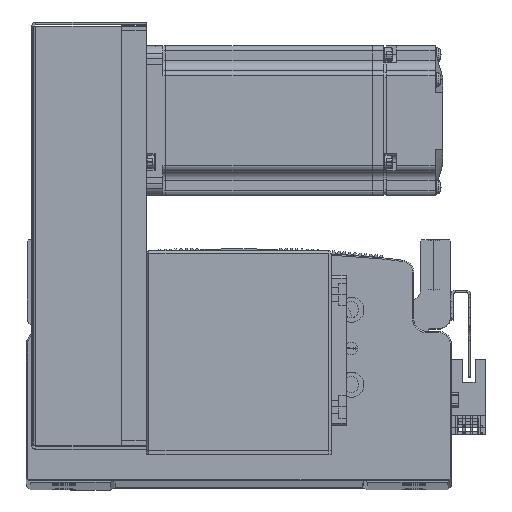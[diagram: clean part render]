
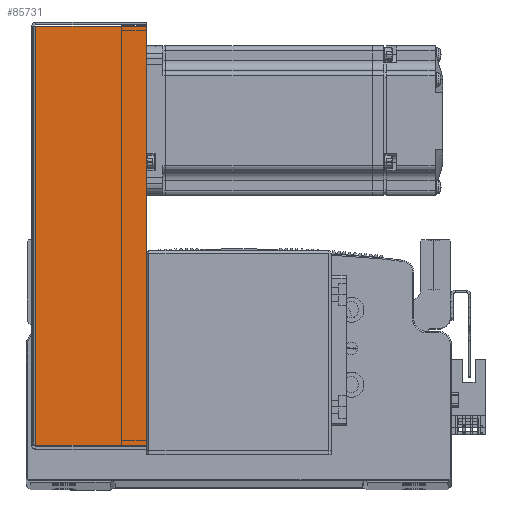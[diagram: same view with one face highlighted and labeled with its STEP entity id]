
A CAD part, top view. The second image highlights one B-rep face of the part: STEP entity #85731.
In plain terms, the highlighted planar face has unit normal (0, 0, 1) as drawn and (0, 0, -1) by its records, which use the part's own axes.
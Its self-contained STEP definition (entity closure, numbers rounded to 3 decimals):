
#18404 = VECTOR ( 'NONE', #21976, 1000. ) ;
#18405 = LINE ( 'NONE', #21939, #18423 ) ;
#18410 = LINE ( 'NONE', #21990, #18404 ) ;
#18423 = VECTOR ( 'NONE', #21972, 1000. ) ;
#18430 = VECTOR ( 'NONE', #22012, 1000. ) ;
#18454 = LINE ( 'NONE', #22009, #18430 ) ;
#18464 = LINE ( 'NONE', #22020, #18485 ) ;
#18485 = VECTOR ( 'NONE', #22165, 1000. ) ;
#21939 = CARTESIAN_POINT ( 'NONE',  ( 0., 0.737, -40.5 ) ) ;
#21972 = DIRECTION ( 'NONE',  ( 1., 0., 0. ) ) ;
#21976 = DIRECTION ( 'NONE',  ( 1., 0., 0. ) ) ;
#21990 = CARTESIAN_POINT ( 'NONE',  ( 84.5, 45., -40.5 ) ) ;
#22009 = CARTESIAN_POINT ( 'NONE',  ( -83.793, 0., -40.5 ) ) ;
#22012 = DIRECTION ( 'NONE',  ( 0., 1., 0. ) ) ;
#22020 = CARTESIAN_POINT ( 'NONE',  ( 83.793, 0., -40.5 ) ) ;
#22165 = DIRECTION ( 'NONE',  ( 0., 1., 0. ) ) ;
#24319 = ORIENTED_EDGE ( 'NONE', *, *, #81696, .T. ) ;
#24355 = ORIENTED_EDGE ( 'NONE', *, *, #81678, .F. ) ;
#24421 = ORIENTED_EDGE ( 'NONE', *, *, #81712, .F. ) ;
#24463 = ORIENTED_EDGE ( 'NONE', *, *, #81709, .T. ) ;
#41722 = AXIS2_PLACEMENT_3D ( 'NONE', #45122, #45172, #45156 ) ;
#45122 = CARTESIAN_POINT ( 'NONE',  ( 0., 0., -40.5 ) ) ;
#45136 = PLANE ( 'NONE',  #41722 ) ;
#45156 = DIRECTION ( 'NONE',  ( 0., -1., 0. ) ) ;
#45172 = DIRECTION ( 'NONE',  ( 0., 0., 1. ) ) ;
#46052 = FACE_OUTER_BOUND ( 'NONE', #73279, .T. ) ;
#48724 = CARTESIAN_POINT ( 'NONE',  ( -83.793, 0.737, -40.5 ) ) ;
#48850 = CARTESIAN_POINT ( 'NONE',  ( 83.793, 0.737, -40.5 ) ) ;
#48953 = CARTESIAN_POINT ( 'NONE',  ( -83.793, 45., -40.5 ) ) ;
#49013 = CARTESIAN_POINT ( 'NONE',  ( 83.793, 45., -40.5 ) ) ;
#73279 = EDGE_LOOP ( 'NONE', ( #24355, #24463, #24319, #24421 ) ) ;
#74402 = VERTEX_POINT ( 'NONE', #48850 ) ;
#74432 = VERTEX_POINT ( 'NONE', #48724 ) ;
#74450 = VERTEX_POINT ( 'NONE', #49013 ) ;
#74481 = VERTEX_POINT ( 'NONE', #48953 ) ;
#81678 = EDGE_CURVE ( 'NONE', #74432, #74402, #18405, .T. ) ;
#81696 = EDGE_CURVE ( 'NONE', #74481, #74450, #18410, .T. ) ;
#81709 = EDGE_CURVE ( 'NONE', #74432, #74481, #18454, .T. ) ;
#81712 = EDGE_CURVE ( 'NONE', #74402, #74450, #18464, .T. ) ;
#85731 = ADVANCED_FACE ( 'NONE', ( #46052 ), #45136, .F. ) ;
